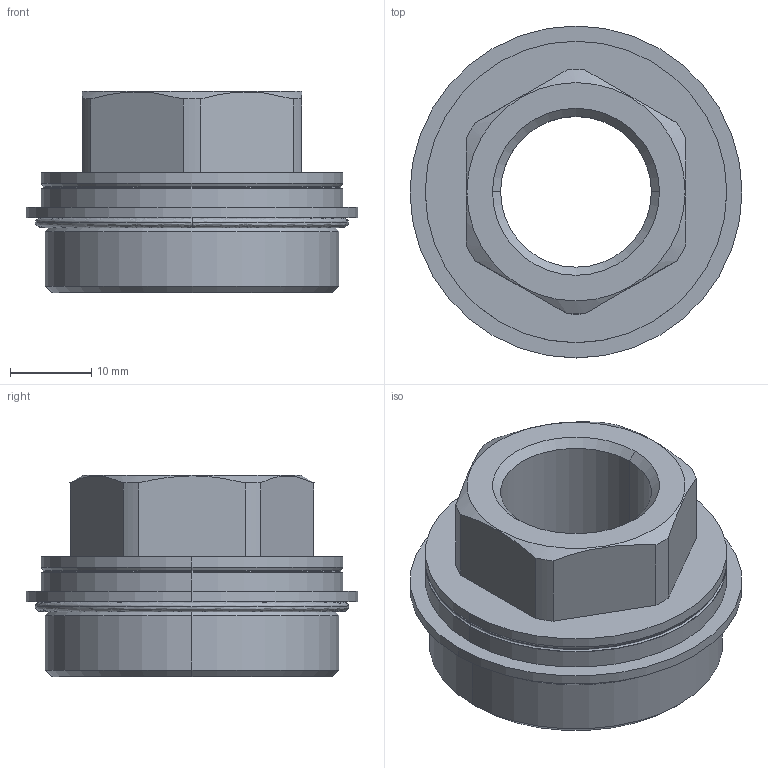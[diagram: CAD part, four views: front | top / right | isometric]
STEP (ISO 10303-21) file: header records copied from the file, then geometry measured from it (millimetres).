
FILE_DESCRIPTION (( 'STEP AP214' ), '1' );
FILE_NAME ('0003191_c_2.step', '2023-03-21T07:23:31', ( '' ), ( '' ), 'SwSTEP 2.0', 'SolidWorks 2020', '' );
FILE_SCHEMA (( 'AUTOMOTIVE_DESIGN' ));
Length unit declared in the file: millimetre
Products named in the file (4): 0003191_c_2; 0002490; 0002490-B; 0002629_Verpresst_1
Assembly tree (2 placements, depth 2):
  0003191_c_2
    0002490
    0002629_Verpresst_1
  0002490-B
Bounding box: 40.75 x 40.75 x 24.7 mm (x, y, z)
Volume: 12896.2 mm3; surface area: 6819.7 mm2
Topology: 2 solids, 2 shells, 59 faces, 130 edges, 78 vertices
Faces by surface type: cylinder 20, cone 14, plane 13, torus 8, bspline 4
Entity records: 1889 total; most frequent: CARTESIAN_POINT 404, DIRECTION 310, ORIENTED_EDGE 260, AXIS2_PLACEMENT_3D 132, EDGE_CURVE 130, VERTEX_POINT 78, CIRCLE 72, EDGE_LOOP 66
